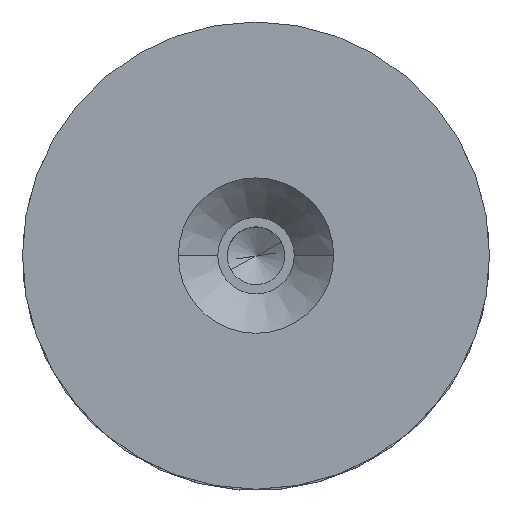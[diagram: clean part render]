
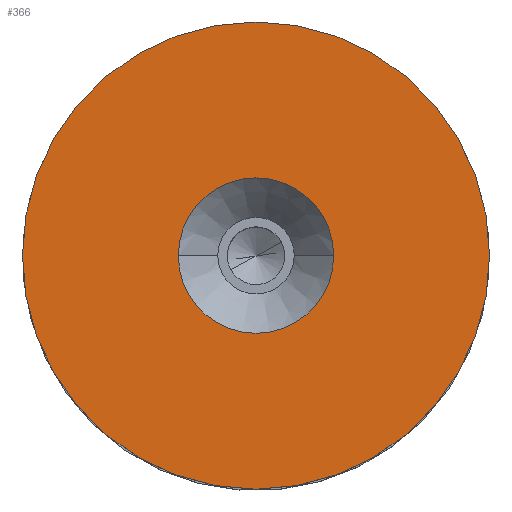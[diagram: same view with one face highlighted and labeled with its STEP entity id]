
A CAD part, top view. The second image highlights one B-rep face of the part: STEP entity #366.
In plain terms, the highlighted planar face has unit normal (0, 0, 1).
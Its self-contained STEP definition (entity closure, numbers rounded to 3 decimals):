
#3 = EDGE_LOOP ( 'NONE', ( #144, #839 ) ) ;
#45 = EDGE_CURVE ( 'NONE', #678, #815, #581, .T. ) ;
#47 = CARTESIAN_POINT ( 'NONE',  ( 0., 0., 8. ) ) ;
#51 = AXIS2_PLACEMENT_3D ( 'NONE', #349, #284, #272 ) ;
#55 = DIRECTION ( 'NONE',  ( 0., 0., -1. ) ) ;
#82 = EDGE_CURVE ( 'NONE', #200, #196, #125, .T. ) ;
#101 = DIRECTION ( 'NONE',  ( 1., 0., 0. ) ) ;
#109 = CARTESIAN_POINT ( 'NONE',  ( -9.15, 0., 8. ) ) ;
#116 = DIRECTION ( 'NONE',  ( 0., 0., 1. ) ) ;
#125 = CIRCLE ( 'NONE', #365, 9.15 ) ;
#131 = CIRCLE ( 'NONE', #319, 27.5 ) ;
#144 = ORIENTED_EDGE ( 'NONE', *, *, #82, .T. ) ;
#159 = FACE_OUTER_BOUND ( 'NONE', #700, .T. ) ;
#196 = VERTEX_POINT ( 'NONE', #109 ) ;
#200 = VERTEX_POINT ( 'NONE', #567 ) ;
#217 = FACE_BOUND ( 'NONE', #3, .T. ) ;
#272 = DIRECTION ( 'NONE',  ( 1., 0., 0. ) ) ;
#284 = DIRECTION ( 'NONE',  ( 0., 0., 1. ) ) ;
#303 = CARTESIAN_POINT ( 'NONE',  ( 0., 0., 8. ) ) ;
#306 = CARTESIAN_POINT ( 'NONE',  ( -27.5, 0., 8. ) ) ;
#319 = AXIS2_PLACEMENT_3D ( 'NONE', #597, #346, #731 ) ;
#323 = CARTESIAN_POINT ( 'NONE',  ( 0., 0., 8. ) ) ;
#346 = DIRECTION ( 'NONE',  ( 0., 0., 1. ) ) ;
#349 = CARTESIAN_POINT ( 'NONE',  ( 0., 0., 8. ) ) ;
#365 = AXIS2_PLACEMENT_3D ( 'NONE', #323, #532, #537 ) ;
#366 = ADVANCED_FACE ( 'NONE', ( #217, #159 ), #596, .T. ) ;
#368 = CIRCLE ( 'NONE', #746, 9.15 ) ;
#411 = DIRECTION ( 'NONE',  ( 1., 0., 0. ) ) ;
#532 = DIRECTION ( 'NONE',  ( 0., 0., -1. ) ) ;
#537 = DIRECTION ( 'NONE',  ( 1., 0., 0. ) ) ;
#567 = CARTESIAN_POINT ( 'NONE',  ( 9.15, 0., 8. ) ) ;
#581 = CIRCLE ( 'NONE', #51, 27.5 ) ;
#592 = ORIENTED_EDGE ( 'NONE', *, *, #832, .T. ) ;
#596 = PLANE ( 'NONE',  #639 ) ;
#597 = CARTESIAN_POINT ( 'NONE',  ( 0., 0., 8. ) ) ;
#601 = EDGE_CURVE ( 'NONE', #196, #200, #368, .T. ) ;
#639 = AXIS2_PLACEMENT_3D ( 'NONE', #303, #116, #411 ) ;
#678 = VERTEX_POINT ( 'NONE', #306 ) ;
#700 = EDGE_LOOP ( 'NONE', ( #806, #592 ) ) ;
#731 = DIRECTION ( 'NONE',  ( 1., 0., 0. ) ) ;
#746 = AXIS2_PLACEMENT_3D ( 'NONE', #47, #55, #101 ) ;
#764 = CARTESIAN_POINT ( 'NONE',  ( 27.5, 0., 8. ) ) ;
#806 = ORIENTED_EDGE ( 'NONE', *, *, #45, .T. ) ;
#815 = VERTEX_POINT ( 'NONE', #764 ) ;
#832 = EDGE_CURVE ( 'NONE', #815, #678, #131, .T. ) ;
#839 = ORIENTED_EDGE ( 'NONE', *, *, #601, .T. ) ;
